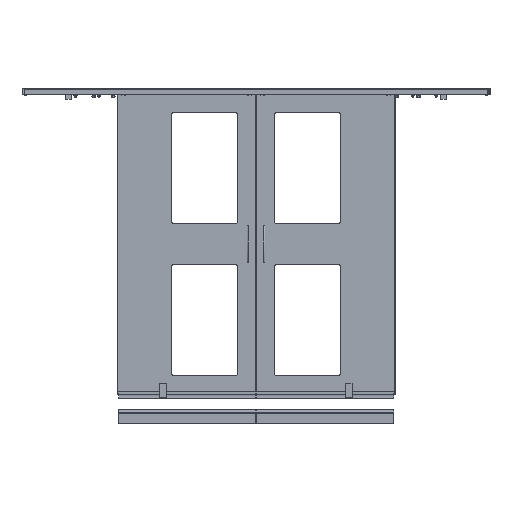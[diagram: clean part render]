
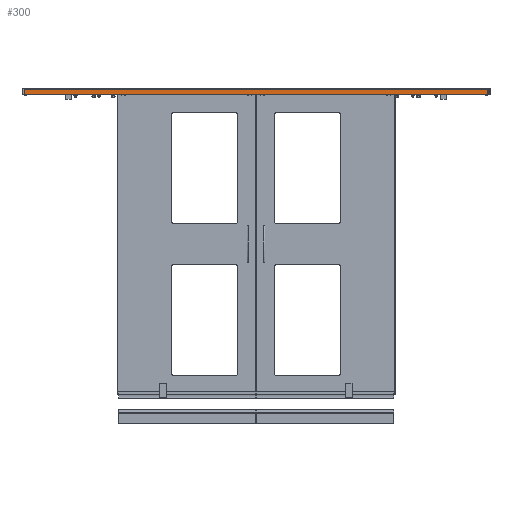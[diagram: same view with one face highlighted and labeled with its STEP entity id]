
A CAD part, top view. The second image highlights one B-rep face of the part: STEP entity #300.
In plain terms, the highlighted planar face has unit normal (0, 0, 1) as drawn and (-1, 0, 0) by its records, which use the part's own axes.
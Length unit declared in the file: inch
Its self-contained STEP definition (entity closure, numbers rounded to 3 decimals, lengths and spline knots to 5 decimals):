
#242=CARTESIAN_POINT('',(-0.8125,-0.6825,129.5));
#243=VERTEX_POINT('',#242);
#251=CARTESIAN_POINT('',(-0.8125,-0.6825,0.0));
#252=VERTEX_POINT('',#251);
#253=CARTESIAN_POINT('',(-0.8125,-0.6825,0.0));
#254=DIRECTION('',(0.0,0.0,1.0));
#255=VECTOR('',#254,129.5);
#256=LINE('',#253,#255);
#257=EDGE_CURVE('',#252,#243,#256,.T.);
#270=CARTESIAN_POINT('',(-0.8125,-0.6825,0.0));
#271=DIRECTION('',(-1.0,0.0,0.0));
#272=DIRECTION('',(0.0,0.0,1.0));
#273=AXIS2_PLACEMENT_3D('',#270,#271,#272);
#274=PLANE('',#273);
#275=CARTESIAN_POINT('',(-0.8125,0.6825,129.5));
#276=VERTEX_POINT('',#275);
#277=CARTESIAN_POINT('',(-0.8125,-0.6825,129.5));
#278=DIRECTION('',(0.0,1.0,0.0));
#279=VECTOR('',#278,1.365);
#280=LINE('',#277,#279);
#281=EDGE_CURVE('',#243,#276,#280,.T.);
#282=ORIENTED_EDGE('',*,*,#281,.T.);
#283=CARTESIAN_POINT('',(-0.8125,0.6825,0.0));
#284=VERTEX_POINT('',#283);
#285=CARTESIAN_POINT('',(-0.8125,0.6825,0.0));
#286=DIRECTION('',(0.0,0.0,1.0));
#287=VECTOR('',#286,129.5);
#288=LINE('',#285,#287);
#289=EDGE_CURVE('',#284,#276,#288,.T.);
#290=ORIENTED_EDGE('',*,*,#289,.F.);
#291=CARTESIAN_POINT('',(-0.8125,-0.6825,0.0));
#292=DIRECTION('',(0.0,1.0,0.0));
#293=VECTOR('',#292,1.365);
#294=LINE('',#291,#293);
#295=EDGE_CURVE('',#252,#284,#294,.T.);
#296=ORIENTED_EDGE('',*,*,#295,.F.);
#297=ORIENTED_EDGE('',*,*,#257,.T.);
#298=EDGE_LOOP('',(#282,#290,#296,#297));
#299=FACE_OUTER_BOUND('',#298,.T.);
#300=ADVANCED_FACE('',(#299),#274,.T.);
